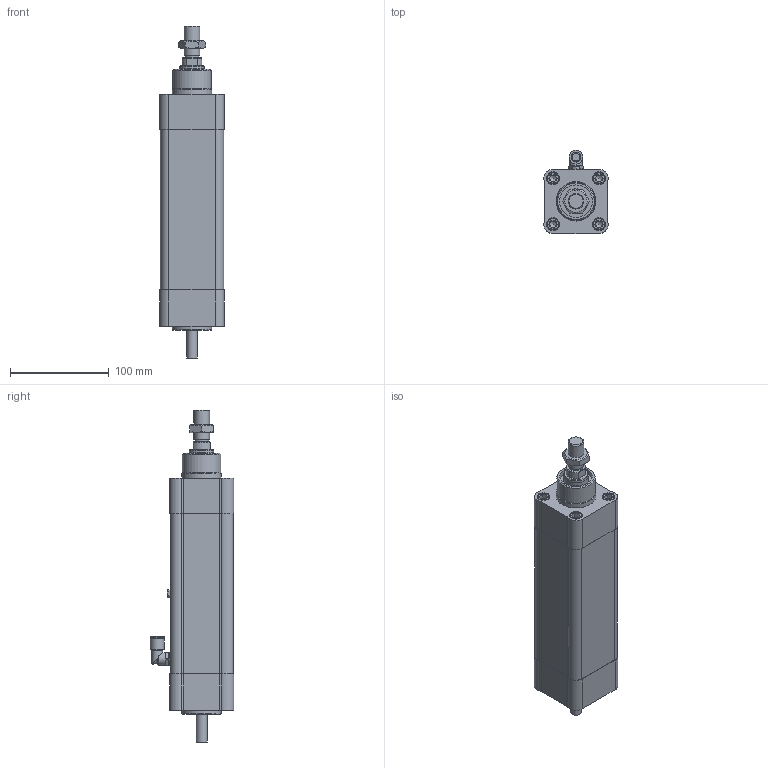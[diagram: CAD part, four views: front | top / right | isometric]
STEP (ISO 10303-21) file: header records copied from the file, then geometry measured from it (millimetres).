
FILE_DESCRIPTION(/* description */ ('STEP AP214'),/* implementation_level */ '2;1');
FILE_NAME(/* name */ 'PNCE 50 BS 2010 55 IP65CR(0)',/* time_stamp */ '2026-06-01T09:22:18+02:00',/* author */ ('License CC BY-ND 4.0'),/* organization */ ('CADENAS'),/* preprocessor_version */ 'ST-DEVELOPER v20',/* originating_system */ 'PARTsolutions',/* authorisation */ ' ');
FILE_SCHEMA (('AUTOMOTIVE_DESIGN {1 0 10303 214 3 1 1}'));
Length unit declared in the file: millimetre
Products named in the file (6): PNCE 50 BS 2010 55 IP65CR(0); PNCE 50_drive cap; PNCE 50 55 IP65CR(0)_cylinder profil; PNCE 50_front cap; PNCE 50 55 IP65CR 0_piston rod; PNCE 50_nut
Assembly tree (5 placements, depth 2):
  PNCE 50 BS 2010 55 IP65CR(0)
    PNCE 50_drive cap
    PNCE 50 55 IP65CR(0)_cylinder profil
    PNCE 50_front cap
    PNCE 50 55 IP65CR 0_piston rod
    PNCE 50_nut
Bounding box: 64.97 x 84.5 x 336 mm (x, y, z)
Volume: 870760.8 mm3; surface area: 187570.2 mm2
Topology: 5 solids, 5 shells, 287 faces, 654 edges, 429 vertices
Faces by surface type: plane 144, cylinder 103, cone 35, torus 5
Full cylindrical faces by diameter (mm): 6.647 x8, 6.7 x4, 8 x9, 8.7 x4, 10 x1, 10.6 x1, 11 x2, 12 x8, 12.5 x2, 13 x8, 14 x2, 14.2 x1, 14.376 x1, 16 x1, 24.8 x1, 25 x2, 31 x1, 33 x1, 39 x1, 40 x2, 49 x1, 50 x3
Entity records: 9296 total; most frequent: CARTESIAN_POINT 1377, DIRECTION 1304, ORIENTED_EDGE 1038, AXIS2_PLACEMENT_3D 524, EDGE_CURVE 519, FACE_BOUND 462, EDGE_LOOP 453, VERTEX_POINT 403
